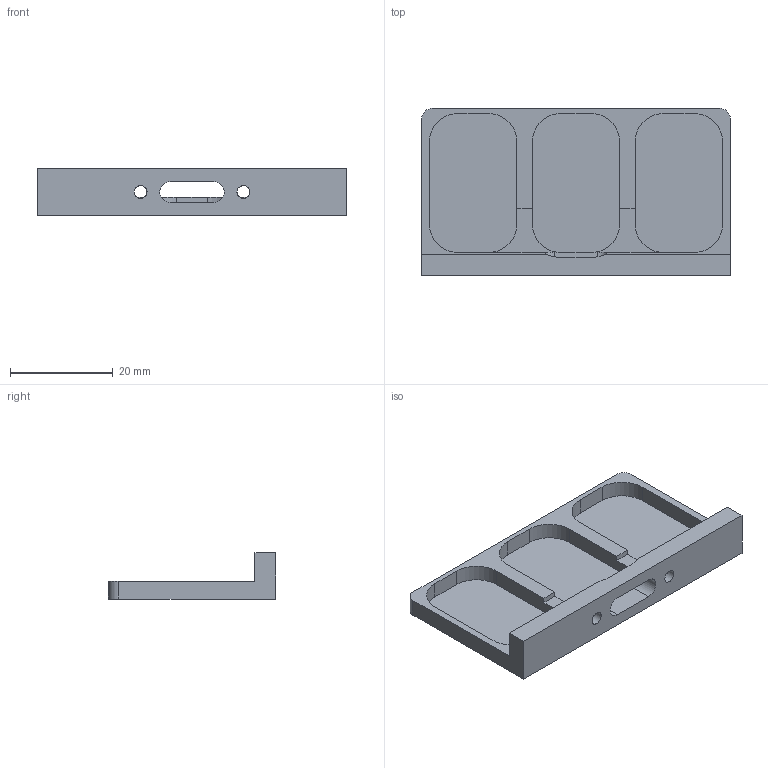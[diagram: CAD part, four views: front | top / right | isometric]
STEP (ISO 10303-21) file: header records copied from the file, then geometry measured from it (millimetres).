
FILE_DESCRIPTION(/* description */ (''),/* implementation_level */ '2;1');
FILE_NAME(/* name */ 'C:/#Projekte/Linear-Motor/STEP/forcer.step',/* time_stamp */ '2019-01-06T11:23:23+01:00',/* author */ (''),/* organization */ (''),/* preprocessor_version */ 'ST-DEVELOPER v17.2',/* originating_system */ 'Autodesk Translation Framework v7.6.0.251',/* authorisation */ '');
FILE_SCHEMA (('AUTOMOTIVE_DESIGN { 1 0 10303 214 3 1 1 }'));
Length unit declared in the file: millimetre
Products named in the file (1): Aktor_2_Spulenaufnahme
Bounding box: 60 x 32.5 x 9 mm (x, y, z)
Volume: 3661.2 mm3; surface area: 6044.3 mm2
Topology: 1 solids, 1 shells, 51 faces, 152 edges, 100 vertices
Faces by surface type: plane 31, cylinder 20
Full cylindrical faces by diameter (mm): 2.5 x2
Entity records: 1778 total; most frequent: CARTESIAN_POINT 314, ORIENTED_EDGE 304, DIRECTION 300, EDGE_CURVE 152, LINE 104, VECTOR 104, VERTEX_POINT 100, AXIS2_PLACEMENT_3D 98
